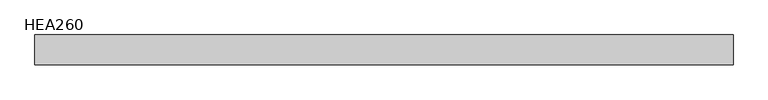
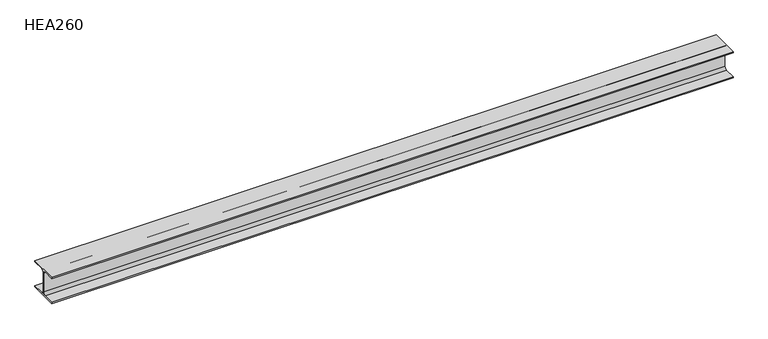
"""IFC4 building model written with IfcOpenShell, lengths in millimetres: beam geometry, HE-A : HEA260."""

import ifcopenshell
import ifcopenshell.guid

model = None  # the IFC model being written
_history = None  # IfcOwnerHistory: only IFC2X3 demands one
_inside = {}  # id of a spatial element -> (the spatial element, [elements in it])
_under = {}  # id of a project, library or spatial element -> (it, [spatial elements below it])
_declared = {}  # id of a project -> (the project, [libraries it declares])
_typed = {}  # id of a type object -> (the type object, [elements of that type])
_made_of = {}  # id of a material, layer set ... -> (it, [elements and type objects made of it])


def new_model(schema):
    """Start an empty IFC model of exactly this schema.

    Asked for "IFC4X3", IfcOpenShell would pick the latest addendum, in which some entities
    have other attributes; the version numbers below select the first issue.
    IFC2X3 requires an IfcOwnerHistory on every rooted entity: one is made here for all.
    """
    global model, _history
    if schema == "IFC4X3":
        model = ifcopenshell.file(schema_version=(4, 3, 0, 0))
    else:
        model = ifcopenshell.file(schema=schema)
    _inside.clear()
    _under.clear()
    _declared.clear()
    _typed.clear()
    _made_of.clear()
    _history = None
    if model.schema == "IFC2X3":
        org = make("IfcOrganization", Name="unknown")
        user = make(
            "IfcPersonAndOrganization",
            ThePerson=make("IfcPerson", FamilyName="unknown"),
            TheOrganization=org,
        )
        app = make(
            "IfcApplication",
            ApplicationDeveloper=org,
            Version="unknown",
            ApplicationFullName="unknown",
            ApplicationIdentifier="unknown",
        )
        _history = make(
            "IfcOwnerHistory",
            OwningUser=user,
            OwningApplication=app,
            ChangeAction="ADDED",
            CreationDate=0,
        )
    return model


def make(cls, **values):
    """One entity of the class cls with the attributes given. An attribute that is None is left unset."""
    return model.create_entity(
        cls, **{name: value for name, value in values.items() if value is not None}
    )


def rooted(cls, **values):
    """An entity with a GlobalId (a new one), such as an element, a storey or a relation."""
    return make(cls, GlobalId=ifcopenshell.guid.new(), OwnerHistory=_history, **values)


def si_unit(unit_type, name, prefix=None):
    """IfcSIUnit, for example si_unit("LENGTHUNIT", "METRE", prefix="MILLI")."""
    return make("IfcSIUnit", UnitType=unit_type, Prefix=prefix, Name=name)


def assignment(units):
    """IfcUnitAssignment: the units of a project."""
    return None if units is None else make("IfcUnitAssignment", Units=units)


def point(xyz):
    """IfcCartesianPoint."""
    return None if xyz is None else make("IfcCartesianPoint", Coordinates=xyz)


def direction(xyz):
    """IfcDirection."""
    return None if xyz is None else make("IfcDirection", DirectionRatios=xyz)


def frame(location, z_axis=None, x_axis=None):
    """IfcAxis2Placement3D, a coordinate frame: its origin and axes. An axis left out is left unset."""
    return make(
        "IfcAxis2Placement3D",
        Location=point(location),
        Axis=direction(z_axis),
        RefDirection=direction(x_axis),
    )


def frame_2d(location, x_axis=None):
    """IfcAxis2Placement2D, a coordinate frame in the plane: its origin and x axis."""
    return make(
        "IfcAxis2Placement2D", Location=point(location), RefDirection=direction(x_axis)
    )


def origin():
    """The frame at (0, 0, 0) with its axes left unset."""
    return frame((0.0, 0.0, 0.0))


def place(relative_to, where):
    """IfcLocalPlacement: puts the frame where relative to a parent placement (None: the world)."""
    return make(
        "IfcLocalPlacement", PlacementRelTo=relative_to, RelativePlacement=where
    )


def context(
    kind, dimensions, precision=None, world=None, true_north=None, identifier=None
):
    """IfcGeometricRepresentationContext, for example the 3D "Model" context."""
    return make(
        "IfcGeometricRepresentationContext",
        ContextIdentifier=identifier,
        ContextType=kind,
        CoordinateSpaceDimension=dimensions,
        Precision=precision,
        WorldCoordinateSystem=world,
        TrueNorth=true_north,
    )


def project(units=None, contexts=None):
    """IfcProject with its units and contexts."""
    return rooted(
        "IfcProject",
        Name="project",
        RepresentationContexts=contexts,
        UnitsInContext=assignment(units),
    )


def spatial(cls, under=None, at=None, **own):
    """A site, building, storey or space (cls), placed at a placement, below another one or the project."""
    s = rooted(cls, ObjectPlacement=at, **own)
    if under is not None:
        _under.setdefault(under.id(), (under, []))[1].append(s)
    return s


def polyline(points):
    """IfcPolyline through the points."""
    return make("IfcPolyline", Points=[point(p) for p in points])


def circle_curve(where, radius):
    """IfcCircle in the frame where."""
    return make("IfcCircle", Position=where, Radius=radius)


def trimmed(basis, trim1, trim2, sense, master):
    """IfcTrimmedCurve: the piece of a basis curve between two trims."""
    return make(
        "IfcTrimmedCurve",
        BasisCurve=basis,
        Trim1=trim1,
        Trim2=trim2,
        SenseAgreement=sense,
        MasterRepresentation=master,
    )


def segment(curve, same_sense, transition):
    """IfcCompositeCurveSegment."""
    return make(
        "IfcCompositeCurveSegment",
        Transition=transition,
        SameSense=same_sense,
        ParentCurve=curve,
    )


def composite_curve(segments, self_intersect=None):
    """IfcCompositeCurve: segments joined end to end."""
    return make("IfcCompositeCurve", Segments=segments, SelfIntersect=self_intersect)


def outline(outer, holes=None, kind="AREA"):
    """IfcArbitraryClosedProfileDef: a profile drawn as a closed curve; with holes, ...WithVoids."""
    if holes is None:
        return make("IfcArbitraryClosedProfileDef", ProfileType=kind, OuterCurve=outer)
    return make(
        "IfcArbitraryProfileDefWithVoids",
        ProfileType=kind,
        OuterCurve=outer,
        InnerCurves=holes,
    )


def extrude(swept, where, along, depth):
    """IfcExtrudedAreaSolid: the profile swept, set in the frame where, extruded along a direction by depth."""
    return make(
        "IfcExtrudedAreaSolid",
        SweptArea=swept,
        Position=where,
        ExtrudedDirection=direction(along),
        Depth=depth,
    )


def shape(context_of_items, identifier, shape_type, items):
    """IfcShapeRepresentation: the items that make up one representation, for example the "Body"."""
    return make(
        "IfcShapeRepresentation",
        ContextOfItems=context_of_items,
        RepresentationIdentifier=identifier,
        RepresentationType=shape_type,
        Items=items,
    )


def source(mapping_origin, context_of_items, identifier, shape_type, items):
    """IfcRepresentationMap: a shape defined once, which mapped items show again and again."""
    return make(
        "IfcRepresentationMap",
        MappingOrigin=mapping_origin,
        MappedRepresentation=shape(context_of_items, identifier, shape_type, items),
    )


def transform(
    local_origin,
    x_axis=None,
    y_axis=None,
    z_axis=None,
    scale=None,
    scale2=None,
    scale3=None,
    uniform=True,
):
    """IfcCartesianTransformationOperator3D, or its non-uniform kind. x_axis, y_axis, z_axis: its Axis1, 2, 3."""
    if uniform:
        return make(
            "IfcCartesianTransformationOperator3D",
            Axis1=direction(x_axis),
            Axis2=direction(y_axis),
            LocalOrigin=point(local_origin),
            Scale=scale,
            Axis3=direction(z_axis),
        )
    return make(
        "IfcCartesianTransformationOperator3DnonUniform",
        Axis1=direction(x_axis),
        Axis2=direction(y_axis),
        LocalOrigin=point(local_origin),
        Scale=scale,
        Axis3=direction(z_axis),
        Scale2=scale2,
        Scale3=scale3,
    )


def mapped(mapping_source, mapping_target):
    """IfcMappedItem: shows the shape of a source again, moved by a transform."""
    return make(
        "IfcMappedItem", MappingSource=mapping_source, MappingTarget=mapping_target
    )


def made_of(thing, what):
    """Note that an element or type object is made of a material, layer set ...; save() writes the relation."""
    if what is not None:
        _made_of.setdefault(what.id(), (what, []))[1].append(thing)
    return thing


def element(
    cls,
    number,
    at=None,
    inside=None,
    cuts=None,
    type_object=None,
    material=None,
    context=None,
    identifier="Body",
    shape_type=None,
    held_by="IfcProductDefinitionShape",
    body=None,
    shapes=None,
    **own,
):
    """One element of the class cls, such as IfcWall. Its Tag is "e" and its number.

    at: its placement. inside: the storey or other place that contains it. cuts: it is an
    opening in that element (IfcRelVoidsElement). A single representation is given by context,
    identifier, shape_type and body (its items); several are given by shapes. held_by: the class
    of the entity that holds the representations. save() writes the other relations.
    """
    e = rooted(cls, Tag="e%d" % number, ObjectPlacement=at, **own)
    if body is not None:
        shapes = [shape(context, identifier, shape_type, body)]
    if shapes is not None:
        e.Representation = make(held_by, Representations=shapes)
    if inside is not None:
        _inside.setdefault(inside.id(), (inside, []))[1].append(e)
    if cuts is not None:
        rooted(
            "IfcRelVoidsElement", RelatingBuildingElement=cuts, RelatedOpeningElement=e
        )
    if type_object is not None:
        _typed.setdefault(type_object.id(), (type_object, []))[1].append(e)
    return made_of(e, material)


def aggregate(whole, parts):
    """IfcRelAggregates: a whole, such as a stair, and the parts it consists of."""
    return rooted("IfcRelAggregates", RelatingObject=whole, RelatedObjects=parts)


def save(model, path):
    """Write the relations noted so far, then the file.

    IfcRelAggregates (storeys below a building ...), IfcRelContainedInSpatialStructure (elements
    in a storey), IfcRelDefinesByType, IfcRelAssociatesMaterial and IfcRelDeclares: one each for
    every whole, place, type object, material and project.
    """
    for whole, parts in _under.values():
        aggregate(whole, parts)
    for where, things in _inside.values():
        rooted(
            "IfcRelContainedInSpatialStructure",
            RelatedElements=things,
            RelatingStructure=where,
        )
    for kind, things in _typed.values():
        rooted("IfcRelDefinesByType", RelatedObjects=things, RelatingType=kind)
    for what, things in _made_of.values():
        rooted("IfcRelAssociatesMaterial", RelatedObjects=things, RelatingMaterial=what)
    for by, libraries in _declared.values():
        rooted("IfcRelDeclares", RelatingContext=by, RelatedDefinitions=libraries)
    model.write(path)


def hea260_317cb1e5(model_context):
    return source(origin(), model_context, "Body", "SweptSolid", [
        extrude(outline(composite_curve([segment(polyline([(130.0, -112.5), (130.0, -125.0), (-130.0, -125.0), (-130.0, -112.5), (-27.75, -112.5)]), True, "CONTINUOUS"), segment(trimmed(circle_curve(frame_2d((-27.75, -88.5)), 24.0), [point((-27.75, -112.5))], [point((-3.75, -88.5))], True, "CARTESIAN"), True, "CONTINUOUS"), segment(polyline([(-3.75, -88.5), (-3.75, 88.5)]), True, "CONTINUOUS"), segment(trimmed(circle_curve(frame_2d((-27.75, 88.5)), 24.0), [point((-3.75, 88.5))], [point((-27.75, 112.5))], True, "CARTESIAN"), True, "CONTINUOUS"), segment(polyline([(-27.75, 112.5), (-130.0, 112.5), (-130.0, 125.0), (130.0, 125.0), (130.0, 112.5), (27.75, 112.5)]), True, "CONTINUOUS"), segment(trimmed(circle_curve(frame_2d((27.75, 88.5)), 24.0), [point((27.75, 112.5))], [point((3.75, 88.5))], True, "CARTESIAN"), True, "CONTINUOUS"), segment(polyline([(3.75, 88.5), (3.75, -88.5)]), True, "CONTINUOUS"), segment(trimmed(circle_curve(frame_2d((27.75, -88.5)), 24.0), [point((3.75, -88.5))], [point((27.75, -112.5))], True, "CARTESIAN"), True, "CONTINUOUS"), segment(polyline([(27.75, -112.5), (130.0, -112.5)]), True, "CONTINUOUS")], self_intersect=False)), frame((-3050.4, 0.0, 0.0), z_axis=(1.0, 0.0, 0.0), x_axis=(0.0, 1.0, 0.0)), (0.0, 0.0, 1.0), 6100.8),
    ])


if __name__ == "__main__":
    model = new_model("IFC4")
    model_context = context("Model", 3, world=origin())
    ifc_project = project(units=[si_unit("LENGTHUNIT", "METRE", prefix="MILLI")], contexts=[model_context])
    site = spatial("IfcSite", under=ifc_project)
    building = spatial("IfcBuilding", under=site)
    placement = place(None, origin())
    hea260_shape = hea260_317cb1e5(model_context)
    element("IfcBeam", 1, ObjectType="HE-A : HEA260", at=placement, inside=building, context=model_context, shape_type="MappedRepresentation", body=[
        mapped(hea260_shape, transform((0.0, 0.0, 0.0), x_axis=(1.0, 0.0, 0.0), y_axis=(0.0, 1.0, 0.0), z_axis=(0.0, 0.0, 1.0))),
    ])
    save(model, "model.ifc")
